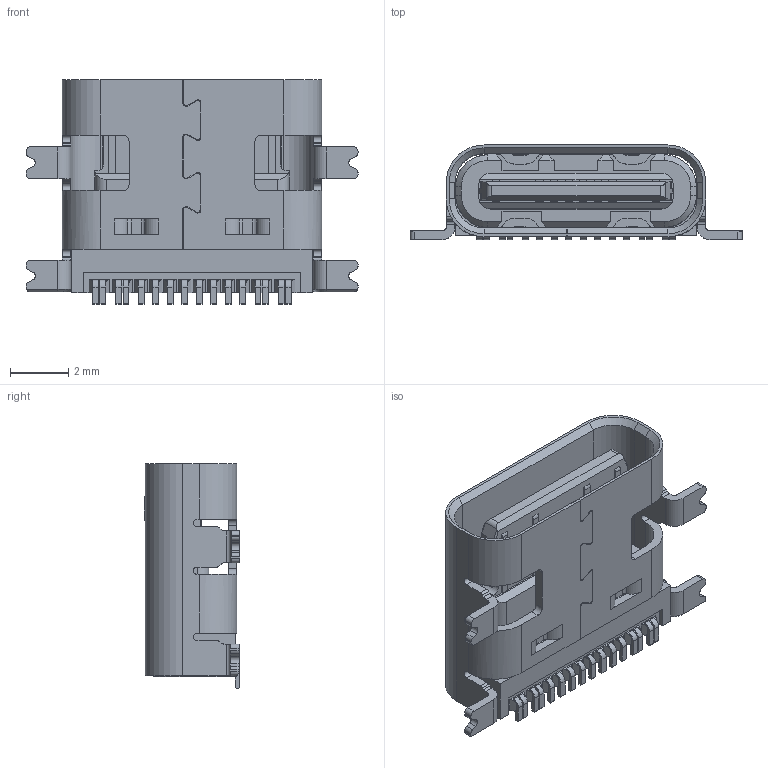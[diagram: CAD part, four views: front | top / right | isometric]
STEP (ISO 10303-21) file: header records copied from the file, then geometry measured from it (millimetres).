
FILE_DESCRIPTION (( 'STEP AP214' ), '1' );
FILE_NAME ('U5097-16PN7.35L.STEP', '2026-06-02T05:44:59', ( '' ), ( '' ), 'SwSTEP 2.0', 'SolidWorks 2024', '' );
FILE_SCHEMA (( 'AUTOMOTIVE_DESIGN' ));
Length unit declared in the file: millimetre
Products named in the file (1): U5097-16PN7.35L
Bounding box: 11.44 x 3.29 x 7.75 mm (x, y, z)
Volume: 115.9 mm3; surface area: 481.2 mm2
Topology: 1 solids, 1 shells, 770 faces, 2227 edges, 1446 vertices
Faces by surface type: plane 501, cylinder 232, bspline 25, cone 12
Entity records: 26888 total; most frequent: CARTESIAN_POINT 6490, ORIENTED_EDGE 4454, DIRECTION 4048, EDGE_CURVE 2227, VECTOR 1646, LINE 1646, VERTEX_POINT 1446, AXIS2_PLACEMENT_3D 1201
